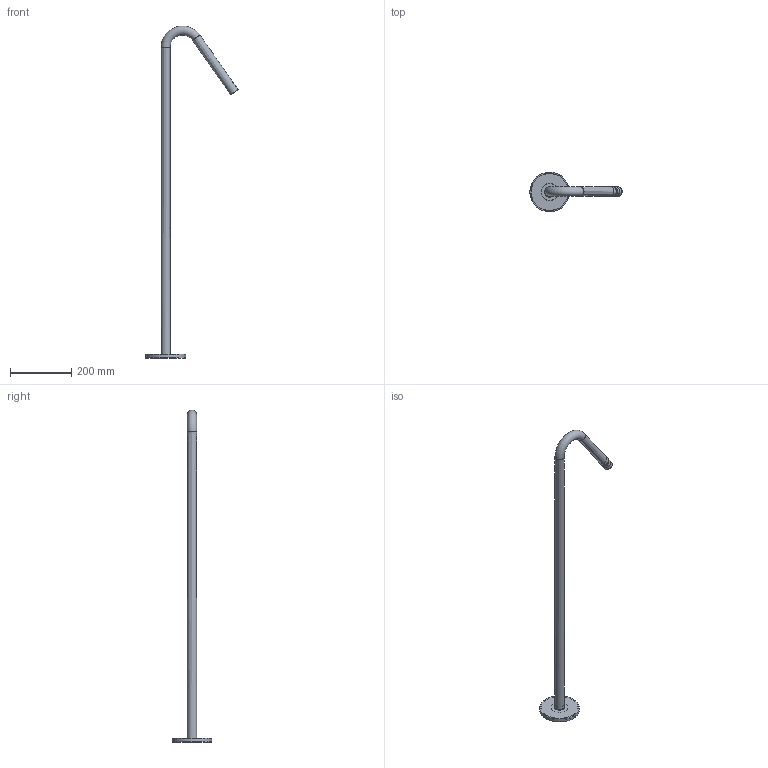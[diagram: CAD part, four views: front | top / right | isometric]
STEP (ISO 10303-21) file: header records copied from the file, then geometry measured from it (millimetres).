
FILE_DESCRIPTION(/* description */ ('Unknown'),/* implementation_level */ '2;1');
FILE_NAME(/* name */ 'RE024',/* time_stamp */ '2023-07-11T14:04:37+02:00',/* author */ ('Unknown'),/* organization */ ('Unknown'),/* preprocessor_version */ 'ST-DEVELOPER v18.102',/* originating_system */ 'Solid Edge',/* authorisation */ 'Unknown');
FILE_SCHEMA (('AUTOMOTIVE_DESIGN {1 0 10303 214 3 1 1}'));
Products named in the file (5): RE024; RE024-03; RE024-01; 42.9300.010; RE024-02
Assembly tree (4 placements, depth 2):
  RE024
    RE024-03
    RE024-01
    42.9300.010
    RE024-02
Bounding box: 302.29 x 130 x 1086.78 mm (x, y, z)
Volume: 288196.2 mm3; surface area: 287163.7 mm2
Topology: 3 solids, 16299 shells, 16387 faces, 49084 edges, 49013 vertices
Faces by surface type: plane 16328, cylinder 27, cone 25, bspline 4, torus 3
Full cylindrical faces by diameter (mm): 14.95 x2, 20.7 x2, 21.75 x1, 24 x1, 25.7 x1, 25.917 x4, 27 x1, 27.7 x1, 28 x1, 31 x2, 34.8 x1, 55 x1, 122 x1, 126 x1, 130 x1
Entity records: 167539 total; most frequent: CARTESIAN_POINT 51126, DIRECTION 32962, AXIS2_PLACEMENT_3D 16466, PLANE 16328, POLY_LOOP 16296, FACE_OUTER_BOUND 16296, FACE_SURFACE 16296, ORIENTED_EDGE 276
